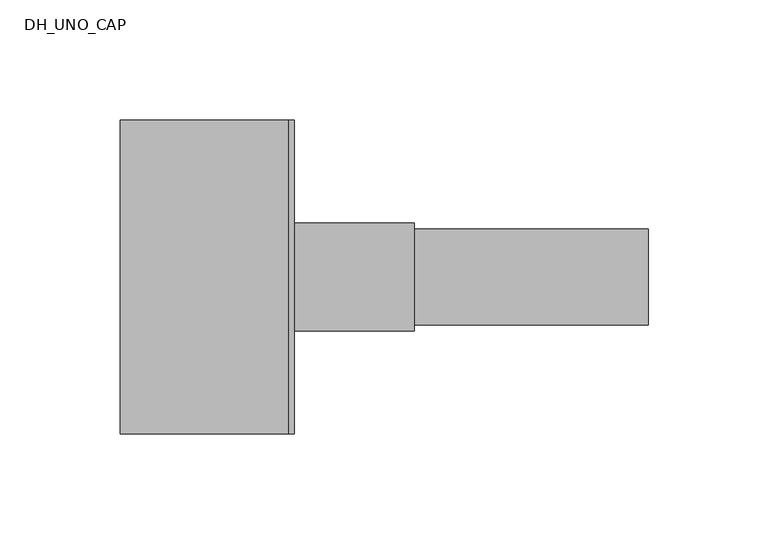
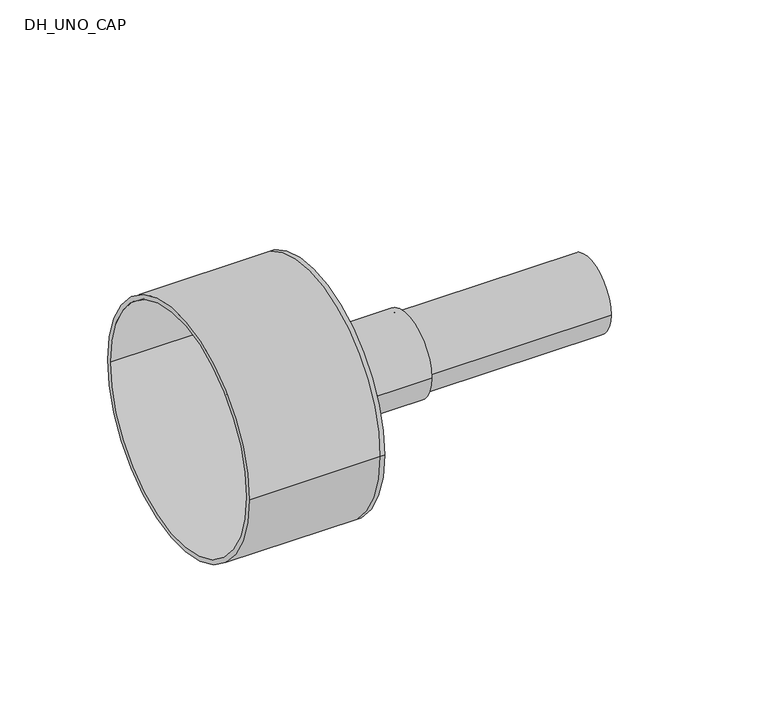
"""IFC4 building model written with IfcOpenShell, lengths in millimetres: pipe fitting geometry, DH_UNO_CAP : RAUTHERMEX UNO ++ 11 Heating - Schrink Cap."""

from ifc_helpers import new_model, si_unit, point, frame, origin, origin_2d, place, context, project, spatial, polyline, circle_curve, trimmed, segment, composite_curve, outline, extrude, source, transform, mapped, element, save
from ifc_brep_helpers import plane_surface, cylinder_surface, revolved_surface, advanced_brep


def dh_uno_cap_8eaff71e(model_context):
    return source(origin(), model_context, "Body", "SolidModel", [
        extrude(outline(composite_curve([segment(trimmed(circle_curve(origin_2d(), 20.0), [point((-20.0, 0.0))], [point((20.0, 0.0))], False, "CARTESIAN"), True, "CONTINUOUS"), segment(trimmed(circle_curve(origin_2d(), 20.0), [point((20.0, 0.0))], [point((-20.0, 0.0))], False, "CARTESIAN"), True, "CONTINUOUS")], self_intersect=False), holes=[composite_curve([segment(trimmed(circle_curve(origin_2d(), 16.3), [point((-16.3, 0.0))], [point((16.3, 0.0))], True, "CARTESIAN"), True, "CONTINUOUS"), segment(trimmed(circle_curve(origin_2d(), 16.3), [point((16.3, 0.0))], [point((-16.3, 0.0))], True, "CARTESIAN"), True, "CONTINUOUS")], self_intersect=False)]), frame((0.0, 0.0, 0.0), z_axis=(1.0, 0.0, 0.0), x_axis=(0.0, 1.0, 0.0)), (0.0, 0.0, 1.0), 150.0),
        advanced_brep(
        [(-70.0, -65.5, 0.0), (-70.0, 65.5, 0.0), (-70.0, -63.0, 0.0), (-70.0, 63.0, 0.0), (0.0, -63.0, 0.0), (0.0, 63.0, 0.0), (0.0, -65.5, 0.0), (0.0, 65.5, 0.0), (0.0, 20.0, 0.0), (0.0, -20.0, 0.0), (2.5, -65.5, 0.0), (2.5, 65.5, 0.0), (2.5, -20.0, 0.0), (2.5, 20.0, 0.0)],
        [
            (0, 1, circle_curve(frame((-70.0, 0.0, 0.0), z_axis=(-1.0, 0.0, 0.0), x_axis=(0.0, 1.0, 0.0)), 65.5)),
            (1, 0, circle_curve(frame((-70.0, 0.0, 0.0), z_axis=(-1.0, 0.0, 0.0), x_axis=(0.0, 1.0, 0.0)), 65.5)),
            (2, 3, circle_curve(frame((-70.0, 0.0, 0.0), z_axis=(1.0, 0.0, 0.0), x_axis=(0.0, 1.0, 0.0)), 63.0)),
            (3, 2, circle_curve(frame((-70.0, 0.0, 0.0), z_axis=(1.0, 0.0, 0.0), x_axis=(0.0, 1.0, 0.0)), 63.0)),
            (2, 4),
            (4, 5, circle_curve(frame((0.0, 0.0, 0.0), z_axis=(1.0, 0.0, 0.0), x_axis=(0.0, 1.0, 0.0)), 63.0)),
            (5, 3),
            (5, 4, circle_curve(frame((0.0, 0.0, 0.0), z_axis=(1.0, 0.0, 0.0), x_axis=(0.0, 1.0, 0.0)), 63.0)),
            (0, 6),
            (6, 7, circle_curve(frame((0.0, 0.0, 0.0), z_axis=(-1.0, 0.0, 0.0), x_axis=(0.0, 1.0, 0.0)), 65.5)),
            (7, 1),
            (7, 6, circle_curve(frame((0.0, 0.0, 0.0), z_axis=(-1.0, 0.0, 0.0), x_axis=(0.0, 1.0, 0.0)), 65.5)),
            (8, 9, circle_curve(frame((0.0, 0.0, 0.0), z_axis=(1.0, 0.0, 0.0), x_axis=(0.0, 1.0, 0.0)), 20.0)),
            (9, 8, circle_curve(frame((0.0, 0.0, 0.0), z_axis=(1.0, 0.0, 0.0), x_axis=(0.0, 1.0, 0.0)), 20.0)),
            (10, 11, circle_curve(frame((2.5, 0.0, 0.0), z_axis=(1.0, 0.0, 0.0), x_axis=(0.0, 1.0, 0.0)), 65.5)),
            (11, 10, circle_curve(frame((2.5, 0.0, 0.0), z_axis=(1.0, 0.0, 0.0), x_axis=(0.0, 1.0, 0.0)), 65.5)),
            (12, 13, circle_curve(frame((2.5, 0.0, 0.0), z_axis=(-1.0, 0.0, 0.0), x_axis=(0.0, 1.0, 0.0)), 20.0)),
            (13, 12, circle_curve(frame((2.5, 0.0, 0.0), z_axis=(-1.0, 0.0, 0.0), x_axis=(0.0, 1.0, 0.0)), 20.0)),
            (11, 7),
            (6, 10),
            (8, 13),
            (12, 9),
        ],
        [
            plane_surface(frame((-70.0, 0.0, 0.0), z_axis=(-1.0, 0.0, 0.0), x_axis=(0.0, 0.0, 1.0))),
            revolved_surface(polyline([(0.0, 63.0, 0.0), (-70.0, 63.0, 0.0)]), (-70.0, 0.0, 0.0), (1.0, 0.0, 0.0)),
            cylinder_surface(frame((-70.0, 0.0, 0.0), z_axis=(-1.0, 0.0, 0.0), x_axis=(0.0, 1.0, 0.0)), 65.5),
            plane_surface(frame((0.0, 0.0, 0.0), z_axis=(-1.0, 0.0, 0.0), x_axis=(0.0, 0.0, 1.0))),
            plane_surface(frame((2.5, 0.0, 0.0), z_axis=(1.0, 0.0, 0.0), x_axis=(0.0, 0.0, 1.0))),
            cylinder_surface(frame((0.0, 0.0, 0.0), z_axis=(-1.0, 0.0, 0.0), x_axis=(0.0, 1.0, 0.0)), 65.5),
            revolved_surface(polyline([(0.0, 20.0, 0.0), (2.5, 20.0, 0.0)]), (0.0, 0.0, 0.0), (-1.0, 0.0, 0.0)),
        ],
        [
            (0, [[1, 2], [3, 4]]),
            (1, [[-3, 5, 6, 7]]),
            (1, [[-4, -7, 8, -5]]),
            (2, [[-1, 9, 10, 11]]),
            (2, [[-2, -11, 12, -9]]),
            (3, [[-6, -8], [13, 14]]),
            (4, [[15, 16], [17, 18]]),
            (5, [[-16, 19, -10, 20]]),
            (5, [[-15, -20, -12, -19]]),
            (6, [[21, -17, 22, -13]]),
            (6, [[-21, -14, -22, -18]]),
        ],
    ),
        extrude(outline(composite_curve([segment(trimmed(circle_curve(origin_2d(), 22.5), [point((-22.5, 0.0))], [point((22.5, 0.0))], False, "CARTESIAN"), True, "CONTINUOUS"), segment(trimmed(circle_curve(origin_2d(), 22.5), [point((22.5, 0.0))], [point((-22.5, 0.0))], False, "CARTESIAN"), True, "CONTINUOUS")], self_intersect=False), holes=[composite_curve([segment(trimmed(circle_curve(origin_2d(), 20.0), [point((-20.0, 0.0))], [point((20.0, 0.0))], True, "CARTESIAN"), True, "CONTINUOUS"), segment(trimmed(circle_curve(origin_2d(), 20.0), [point((20.0, 0.0))], [point((-20.0, 0.0))], True, "CARTESIAN"), True, "CONTINUOUS")], self_intersect=False)]), frame((2.5, 0.0, 0.0), z_axis=(1.0, 0.0, 0.0), x_axis=(0.0, 1.0, 0.0)), (0.0, 0.0, 1.0), 50.0),
    ])


if __name__ == "__main__":
    model = new_model("IFC4")
    model_context = context("Model", 3, world=origin())
    ifc_project = project(units=[si_unit("LENGTHUNIT", "METRE", prefix="MILLI")], contexts=[model_context])
    site = spatial("IfcSite", under=ifc_project)
    building = spatial("IfcBuilding", under=site)
    placement = place(None, origin())
    dh_uno_cap_shape = dh_uno_cap_8eaff71e(model_context)
    element("IfcPipeFitting", 1, ObjectType="DH_UNO_CAP : RAUTHERMEX UNO ++ 11 Heating - Schrink Cap", at=placement, inside=building, context=model_context, shape_type="MappedRepresentation", body=[
        mapped(dh_uno_cap_shape, transform((0.0, 0.0, 0.0), x_axis=(1.0, 0.0, 0.0), y_axis=(0.0, 1.0, 0.0), z_axis=(0.0, 0.0, 1.0))),
    ])
    save(model, "model.ifc")
